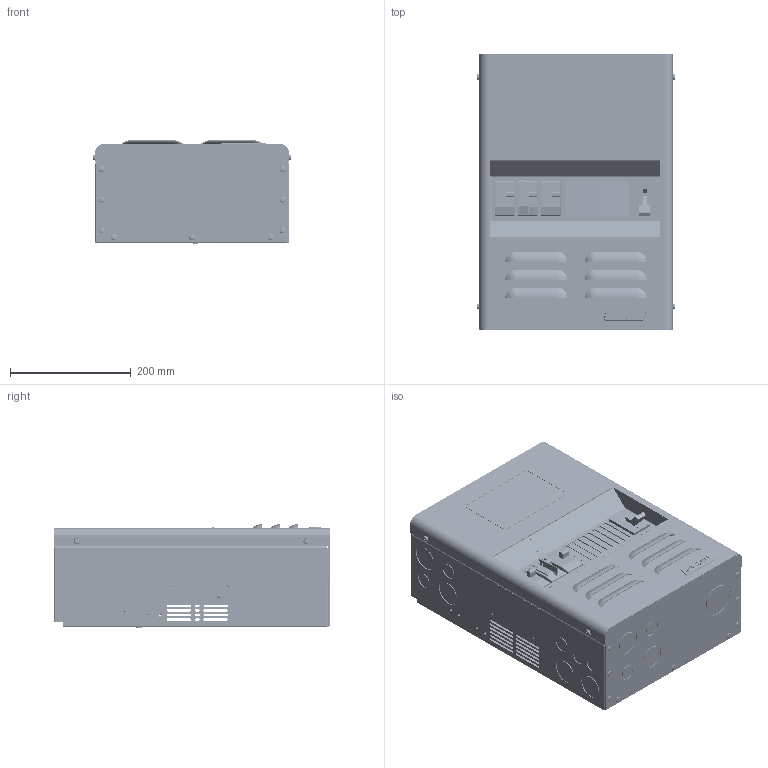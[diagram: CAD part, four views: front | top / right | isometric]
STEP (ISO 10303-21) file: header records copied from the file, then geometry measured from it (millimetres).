
FILE_DESCRIPTION (( 'STEP AP214' ), '1' );
FILE_NAME ('AMMPXXX-30D L MiniMagnum Panel.STEP', '2018-05-18T18:49:46', ( '' ), ( '' ), 'SwSTEP 2.0', 'SolidWorks 2015', '' );
FILE_SCHEMA (( 'AUTOMOTIVE_DESIGN' ));
Length unit declared in the file: inch
Products named in the file (1): AMMPXXX-30D L MiniMagnum Panel
Bounding box: 329.03 x 458.16 x 171.81 mm (x, y, z)
Volume: 1888654.3 mm3; surface area: 1534420.1 mm2
Topology: 100 solids, 100 shells, 5359 faces, 13359 edges, 8485 vertices
Faces by surface type: plane 2097, cylinder 1914, bspline 568, cone 521, torus 226, sphere 33
Entity records: 254992 total; most frequent: CARTESIAN_POINT 59737, ORIENTED_EDGE 26674, DIRECTION 24370, EDGE_CURVE 13337, AXIS2_PLACEMENT_3D 8794, VERTEX_POINT 8485, LINE 6782, VECTOR 6782
